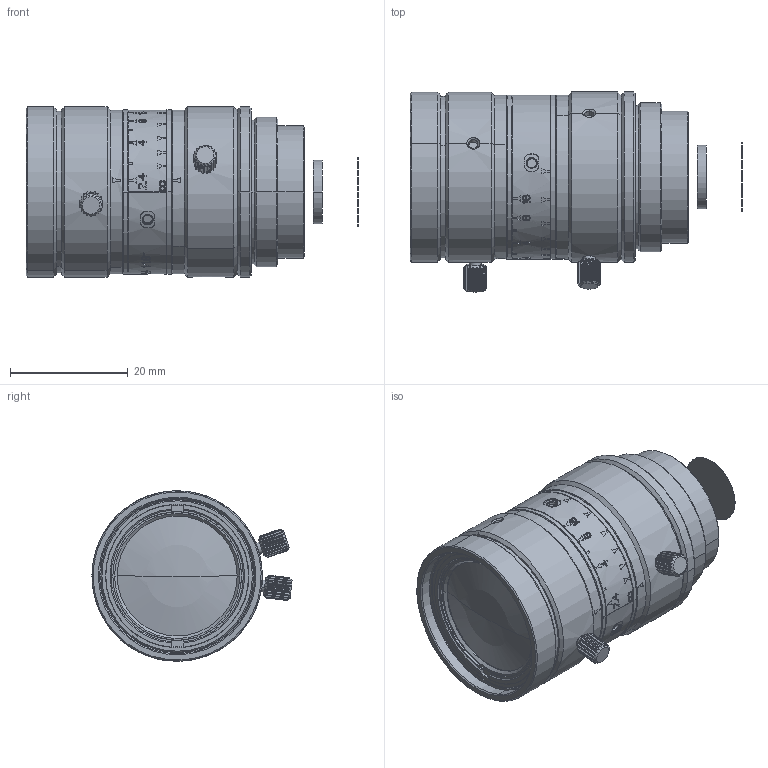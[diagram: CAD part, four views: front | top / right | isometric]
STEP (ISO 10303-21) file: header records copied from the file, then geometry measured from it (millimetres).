
FILE_DESCRIPTION((''),'2;1');
FILE_NAME('MVL-HF1624M-10MP__ASM','2020-07-10T15:06:27',('dihaoping'),(''),'CREO PARAMETRIC BY PTC INC, 2017260','CREO PARAMETRIC BY PTC INC, 2017260','');
FILE_SCHEMA(('CONFIG_CONTROL_DESIGN'));
Length unit declared in the file: millimetre
Products named in the file (7): BREP_WITH_VOIDS_56064; MANIFOLD_SOLID_BREP_56177; MANIFOLD_SOLID_BREP_56290; MVL-HF1624M-10MP_306; MVL-HF1624M-10MP_306_ASM_ASM; MVL-HF1624M-10MP1_ASM; MVL-HF1624M-10MP__ASM
Assembly tree (6 placements, depth 4):
  MVL-HF1624M-10MP__ASM
    MVL-HF1624M-10MP1_ASM
      MVL-HF1624M-10MP_306_ASM_ASM
        BREP_WITH_VOIDS_56064
        MANIFOLD_SOLID_BREP_56177
        MANIFOLD_SOLID_BREP_56290
        MVL-HF1624M-10MP_306
Bounding box: 56.48 x 34.04 x 29 mm (x, y, z)
Volume: 26873.8 mm3; surface area: 8130.6 mm2
Topology: 3 solids, 8 shells, 1189 faces, 3341 edges, 2237 vertices
Faces by surface type: plane 567, bspline 264, cylinder 245, cone 105, torus 6, sphere 2
Entity records: 47204 total; most frequent: CARTESIAN_POINT 17680, ORIENTED_EDGE 6678, DIRECTION 5467, EDGE_CURVE 3339, VERTEX_POINT 2237, AXIS2_PLACEMENT_3D 2071, VECTOR 1325, LINE 1325
